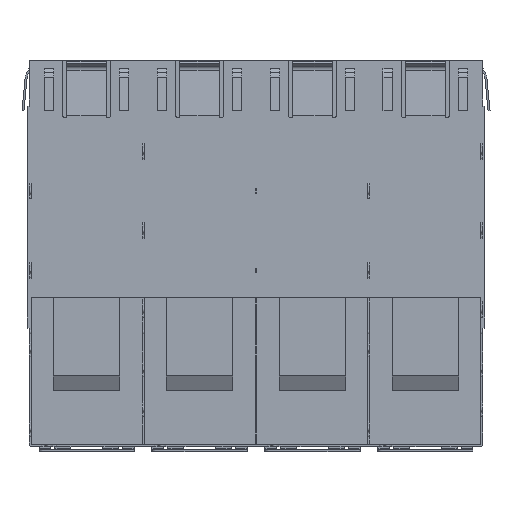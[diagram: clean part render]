
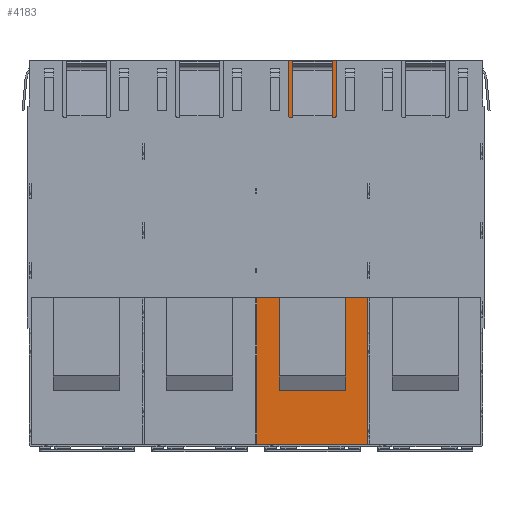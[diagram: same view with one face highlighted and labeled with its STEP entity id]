
A CAD part, front view. The second image highlights one B-rep face of the part: STEP entity #4183.
In plain terms, the highlighted planar face has unit normal (0, -1, 0).
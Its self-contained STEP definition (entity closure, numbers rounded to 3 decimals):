
#4183=ADVANCED_FACE('',(#8676,#8677),#6693,.F.);
#6693=PLANE('',#49139);
#8676=FACE_BOUND('',#8727,.T.);
#8677=FACE_BOUND('',#8728,.T.);
#8727=EDGE_LOOP('',(#11333,#11334,#11335,#11336));
#8728=EDGE_LOOP('',(#11337,#11338,#11339,#11340));
#11333=ORIENTED_EDGE('',*,*,#30121,.F.);
#11334=ORIENTED_EDGE('',*,*,#30122,.T.);
#11335=ORIENTED_EDGE('',*,*,#30123,.T.);
#11336=ORIENTED_EDGE('',*,*,#30124,.F.);
#11337=ORIENTED_EDGE('',*,*,#30125,.F.);
#11338=ORIENTED_EDGE('',*,*,#30126,.T.);
#11339=ORIENTED_EDGE('',*,*,#30127,.F.);
#11340=ORIENTED_EDGE('',*,*,#30128,.F.);
#25513=VERTEX_POINT('',#65766);
#25514=VERTEX_POINT('',#65767);
#25515=VERTEX_POINT('',#65769);
#25516=VERTEX_POINT('',#65771);
#25517=VERTEX_POINT('',#65774);
#25518=VERTEX_POINT('',#65775);
#25519=VERTEX_POINT('',#65777);
#25520=VERTEX_POINT('',#65779);
#30121=EDGE_CURVE('',#25513,#25514,#37211,.T.);
#30122=EDGE_CURVE('',#25513,#25515,#37212,.T.);
#30123=EDGE_CURVE('',#25515,#25516,#37213,.T.);
#30124=EDGE_CURVE('',#25514,#25516,#37214,.T.);
#30125=EDGE_CURVE('',#25517,#25518,#37215,.T.);
#30126=EDGE_CURVE('',#25517,#25519,#37216,.T.);
#30127=EDGE_CURVE('',#25520,#25519,#37217,.T.);
#30128=EDGE_CURVE('',#25518,#25520,#37218,.T.);
#37211=LINE('',#65765,#43205);
#37212=LINE('',#65768,#43206);
#37213=LINE('',#65770,#43207);
#37214=LINE('',#65772,#43208);
#37215=LINE('',#65773,#43209);
#37216=LINE('',#65776,#43210);
#37217=LINE('',#65778,#43211);
#37218=LINE('',#65780,#43212);
#43205=VECTOR('',#52711,1.);
#43206=VECTOR('',#52712,1.);
#43207=VECTOR('',#52713,1.);
#43208=VECTOR('',#52714,1.);
#43209=VECTOR('',#52715,1.);
#43210=VECTOR('',#52716,1.);
#43211=VECTOR('',#52717,1.);
#43212=VECTOR('',#52718,1.);
#49139=AXIS2_PLACEMENT_3D('',#65781,#52719,#52720);
#52711=DIRECTION('',(0.,0.,-1.));
#52712=DIRECTION('',(-1.,0.,0.));
#52713=DIRECTION('',(0.,0.,-1.));
#52714=DIRECTION('',(-1.,0.,0.));
#52715=DIRECTION('',(-1.,0.,0.));
#52716=DIRECTION('',(0.,0.,-1.));
#52717=DIRECTION('',(1.,0.,0.));
#52718=DIRECTION('',(0.,0.,-1.));
#52719=DIRECTION('',(0.,1.,0.));
#52720=DIRECTION('',(0.,0.,-1.));
#65765=CARTESIAN_POINT('',(14.125,9.2,8.953));
#65766=CARTESIAN_POINT('',(14.125,9.2,0.));
#65767=CARTESIAN_POINT('',(14.125,9.2,-48.5));
#65768=CARTESIAN_POINT('',(28.325,9.2,0.));
#65769=CARTESIAN_POINT('',(0.125,9.2,0.));
#65770=CARTESIAN_POINT('',(0.125,9.2,8.953));
#65771=CARTESIAN_POINT('',(0.125,9.2,-48.5));
#65772=CARTESIAN_POINT('',(28.325,9.2,-48.5));
#65773=CARTESIAN_POINT('',(28.325,9.2,-16.758));
#65774=CARTESIAN_POINT('',(11.325,9.2,-16.758));
#65775=CARTESIAN_POINT('',(2.925,9.2,-16.758));
#65776=CARTESIAN_POINT('',(11.325,9.2,-106.201));
#65777=CARTESIAN_POINT('',(11.325,9.2,-41.642));
#65778=CARTESIAN_POINT('',(28.325,9.2,-41.642));
#65779=CARTESIAN_POINT('',(2.925,9.2,-41.642));
#65780=CARTESIAN_POINT('',(2.925,9.2,-106.201));
#65781=CARTESIAN_POINT('',(28.325,9.2,-106.201));
